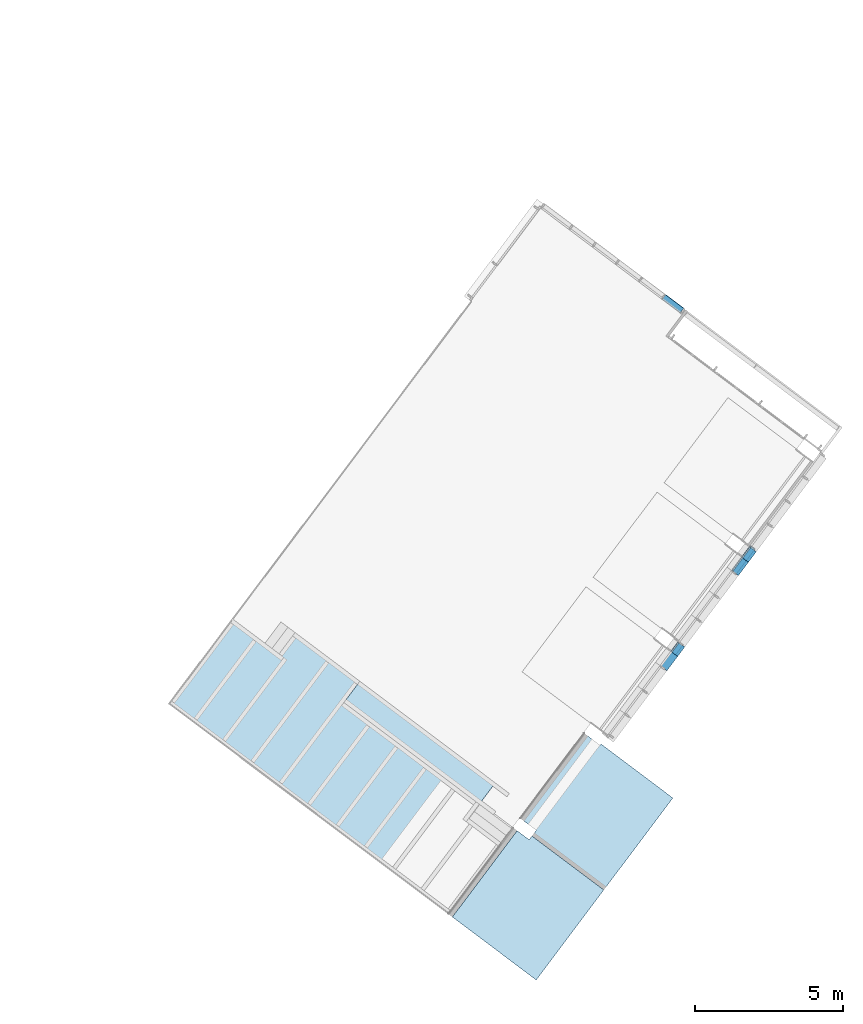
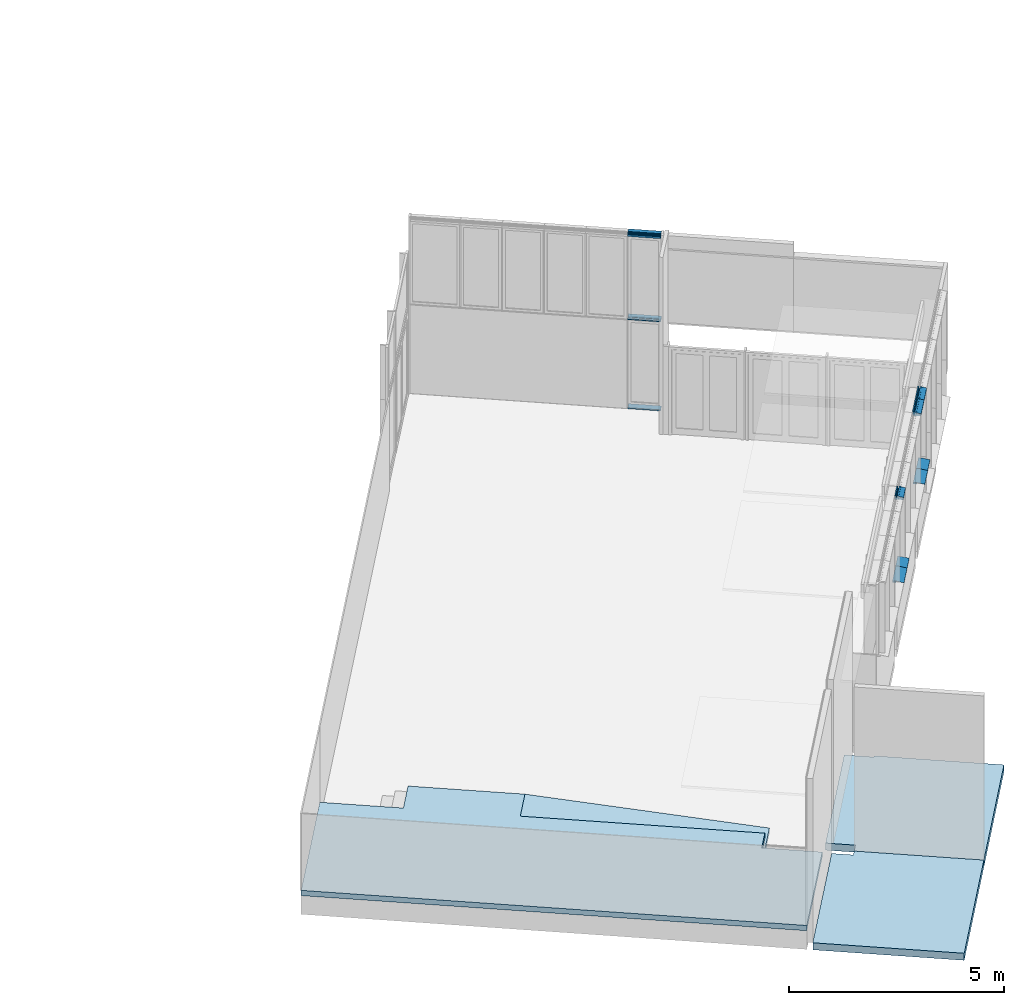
# One storey, part 5 of 15: 10 members, 4 slabs, 2 elements without a shape of their own.
"""IFC2X3 building model written with IfcOpenShell, lengths in metres."""

from ifc_helpers import new_model, entity, si_unit, converted_unit, derived_unit, direction, frame, frame_2d, origin, place, context, subcontext, project, spatial, polyline, circle_curve, parameter, trimmed, segment, composite_curve, rectangle, outline, extrude, clip, halfspace, source, transform, mapped, material, layer, layer_set, layer_usage, type_object, type_shapes, element, aggregate, save


model = new_model("IFC2X3")

# Units and contexts
model_context = context("Model", 3, precision=1e-05, world=origin(), true_north=direction((6.123031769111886e-17, 1.0)))
body_context = subcontext(model_context, "Body", "Model", "MODEL_VIEW")
ifc_project = project(units=[si_unit("LENGTHUNIT", "METRE"), si_unit("AREAUNIT", "SQUARE_METRE"), si_unit("VOLUMEUNIT", "CUBIC_METRE"), converted_unit("PLANEANGLEUNIT", "DEGREE", entity("IfcRatioMeasure", 0.017453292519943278), si_unit("PLANEANGLEUNIT", "RADIAN"), dimensions=[0, 0, 0, 0, 0, 0, 0]), si_unit("MASSUNIT", "GRAM", prefix="KILO"), derived_unit("MASSDENSITYUNIT", [(si_unit("MASSUNIT", "GRAM", prefix="KILO"), 1), (si_unit("LENGTHUNIT", "METRE"), -3)]), derived_unit("IONCONCENTRATIONUNIT", [(si_unit("MASSUNIT", "GRAM", prefix="KILO"), 1), (si_unit("LENGTHUNIT", "METRE"), -3)]), derived_unit("MOMENTOFINERTIAUNIT", [(si_unit("LENGTHUNIT", "METRE"), 4)]), si_unit("TIMEUNIT", "SECOND"), si_unit("FREQUENCYUNIT", "HERTZ"), si_unit("THERMODYNAMICTEMPERATUREUNIT", "DEGREE_CELSIUS"), derived_unit("THERMALTRANSMITTANCEUNIT", [(si_unit("MASSUNIT", "GRAM", prefix="KILO"), 1), (si_unit("THERMODYNAMICTEMPERATUREUNIT", "KELVIN"), -1), (si_unit("TIMEUNIT", "SECOND"), -3)]), derived_unit("THERMALCONDUCTANCEUNIT", [(si_unit("MASSUNIT", "GRAM", prefix="KILO"), 1), (si_unit("THERMODYNAMICTEMPERATUREUNIT", "KELVIN"), -1), (si_unit("TIMEUNIT", "SECOND"), -3), (si_unit("LENGTHUNIT", "METRE"), 1)]), derived_unit("VOLUMETRICFLOWRATEUNIT", [(si_unit("LENGTHUNIT", "METRE"), 3), (si_unit("TIMEUNIT", "SECOND"), -1)]), derived_unit("MASSFLOWRATEUNIT", [(si_unit("MASSUNIT", "GRAM", prefix="KILO"), 1), (si_unit("TIMEUNIT", "SECOND"), -1)]), derived_unit("ROTATIONALFREQUENCYUNIT", [(si_unit("TIMEUNIT", "SECOND"), -1)]), si_unit("ELECTRICCURRENTUNIT", "AMPERE"), si_unit("ELECTRICVOLTAGEUNIT", "VOLT"), si_unit("POWERUNIT", "WATT"), si_unit("FORCEUNIT", "NEWTON", prefix="KILO"), si_unit("ILLUMINANCEUNIT", "LUX"), si_unit("LUMINOUSFLUXUNIT", "LUMEN"), si_unit("LUMINOUSINTENSITYUNIT", "CANDELA"), derived_unit("USERDEFINED", [(si_unit("MASSUNIT", "GRAM", prefix="KILO"), -1), (si_unit("LENGTHUNIT", "METRE"), -2), (si_unit("TIMEUNIT", "SECOND"), 3), (si_unit("LUMINOUSFLUXUNIT", "LUMEN"), 1)]), derived_unit("USERDEFINED", [(si_unit("MASSUNIT", "GRAM", prefix="KILO"), 1), (si_unit("TIMEUNIT", "SECOND"), -3), (si_unit("LENGTHUNIT", "METRE"), 3), (si_unit("ELECTRICCURRENTUNIT", "AMPERE"), -2)]), derived_unit("SOUNDPOWERUNIT", [(si_unit("MASSUNIT", "GRAM", prefix="KILO"), 1), (si_unit("TIMEUNIT", "SECOND"), -3), (si_unit("LENGTHUNIT", "METRE"), 2)]), derived_unit("SOUNDPRESSUREUNIT", [(si_unit("MASSUNIT", "GRAM", prefix="KILO"), 1), (si_unit("LENGTHUNIT", "METRE"), -1), (si_unit("TIMEUNIT", "SECOND"), -2)]), derived_unit("LINEARVELOCITYUNIT", [(si_unit("LENGTHUNIT", "METRE"), 1), (si_unit("TIMEUNIT", "SECOND"), -1)]), si_unit("PRESSUREUNIT", "PASCAL"), derived_unit("USERDEFINED", [(si_unit("MASSUNIT", "GRAM", prefix="KILO"), 1), (si_unit("LENGTHUNIT", "METRE"), -2), (si_unit("TIMEUNIT", "SECOND"), -2)]), derived_unit("LINEARFORCEUNIT", [(si_unit("MASSUNIT", "GRAM", prefix="KILO"), 1), (si_unit("TIMEUNIT", "SECOND"), -2)]), derived_unit("PLANARFORCEUNIT", [(si_unit("MASSUNIT", "GRAM", prefix="KILO"), 1), (si_unit("LENGTHUNIT", "METRE"), -1), (si_unit("TIMEUNIT", "SECOND"), -2)]), derived_unit("SPECIFICHEATCAPACITYUNIT", [(si_unit("THERMODYNAMICTEMPERATUREUNIT", "KELVIN"), -1), (si_unit("LENGTHUNIT", "METRE"), 2), (si_unit("TIMEUNIT", "SECOND"), -2)]), derived_unit("HEATINGVALUEUNIT", [(si_unit("LENGTHUNIT", "METRE"), 2), (si_unit("TIMEUNIT", "SECOND"), -2)]), derived_unit("VAPORPERMEABILITYUNIT", [(si_unit("LENGTHUNIT", "METRE"), -1), (si_unit("TIMEUNIT", "SECOND"), 1)]), derived_unit("DYNAMICVISCOSITYUNIT", [(si_unit("MASSUNIT", "GRAM", prefix="KILO"), 1), (si_unit("TIMEUNIT", "SECOND"), -1), (si_unit("LENGTHUNIT", "METRE"), -1)]), derived_unit("THERMALEXPANSIONCOEFFICIENTUNIT", [(si_unit("THERMODYNAMICTEMPERATUREUNIT", "KELVIN"), -1)]), derived_unit("MODULUSOFELASTICITYUNIT", [(si_unit("MASSUNIT", "GRAM", prefix="KILO"), 1), (si_unit("LENGTHUNIT", "METRE"), -1), (si_unit("TIMEUNIT", "SECOND"), -2)]), derived_unit("ISOTHERMALMOISTURECAPACITYUNIT", [(si_unit("LENGTHUNIT", "METRE"), 3), (si_unit("MASSUNIT", "GRAM", prefix="KILO"), -1)]), derived_unit("MOISTUREDIFFUSIVITYUNIT", [(si_unit("TIMEUNIT", "SECOND"), -1), (si_unit("LENGTHUNIT", "METRE"), 2)])], contexts=[model_context])

# Site, building, storey
site_placement = place(None, frame((0.0, 0.0, 235.0), z_axis=(0.0, 0.0, 1.0), x_axis=(-0.7996477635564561, 0.6004693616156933, 0.0)))
site = spatial("IfcSite", under=ifc_project, at=site_placement, Name="Default", CompositionType="ELEMENT")
building_placement = place(site_placement, origin())
building = spatial("IfcBuilding", under=site, at=building_placement, CompositionType="ELEMENT")
storey_placement = place(building_placement, frame((0.0, 0.0, -5.4499999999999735)))
storey = spatial("IfcBuildingStorey", under=building, at=storey_placement, Name="PS1- Gimnàs", CompositionType="ELEMENT", Elevation=-5.4499999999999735)

# Curtain wall, members
curtain_wall_type_1 = type_object("IfcCurtainWallType", Name="Muro cortina:MC- EXT- MCv1- lateral", PredefinedType="NOTDEFINED")
curtain_wall_1_placement = place(storey_placement, frame((0.0, 0.0, 5.4499999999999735)))
curtain_wall_1 = element("IfcCurtainWall", 1, at=curtain_wall_1_placement, inside=storey, type_object=curtain_wall_type_1, Name="Muro cortina:MC- EXT- MCv1- lateral", ObjectType="Muro cortina:MC- EXT- MCv1- lateral")
ifc_material_1 = material(Name="_Alumini- T1- Perfil")
member_type_1 = type_object("IfcMemberType", Name="Montante rectangular:MC- Alu- 210x50 cm- Gimnas- Superior", PredefinedType="MULLION", material=ifc_material_1)
shared_shape_1 = source(origin(), body_context, "Body", "SweptSolid", [
    extrude(outline(polyline([(-0.09008951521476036, -0.0692243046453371), (0.10991048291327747, -0.0692243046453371), (0.10991048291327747, -0.016724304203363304), (-0.027089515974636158, -0.016724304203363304), (-0.027089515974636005, 0.030275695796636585), (0.006151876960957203, 0.030275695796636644), (0.006151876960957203, 0.01801675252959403), (0.11816142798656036, -0.0017335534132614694), (0.11816142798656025, -0.029506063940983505), (0.12116142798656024, -0.029506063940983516), (0.12116142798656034, 0.0007837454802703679), (0.009151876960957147, 0.020534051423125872), (0.009151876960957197, 0.033275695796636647), (-0.030089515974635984, 0.03327569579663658), (-0.030089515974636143, -0.016724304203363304), (-0.0620895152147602, -0.016724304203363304), (-0.06208951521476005, 0.03327569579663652), (-0.09008951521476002, 0.03327569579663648), (-0.09008951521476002, 0.030275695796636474), (-0.06508951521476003, 0.03027569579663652), (-0.06508951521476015, -0.013724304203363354), (-0.09008951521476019, -0.01372430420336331), (-0.09008951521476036, -0.0692243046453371)])), frame((-0.03327569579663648, -0.030089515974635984, -0.5662752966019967), z_axis=(0.0, 0.0, 1.0), x_axis=(0.0, -1.0, 0.0)), (0.0, 0.0, 1.0), 0.5662752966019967),
])
type_shapes(member_type_1, [shared_shape_1])
member_1_placement = place(curtain_wall_1_placement, frame((3.08514768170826, -33.38391646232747, -0.7900000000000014), z_axis=(0.0, 1.0, 0.0), x_axis=(0.0, 0.0, 1.0)))
member_1 = element("IfcMember", 2, at=member_1_placement, type_object=member_type_1, material=ifc_material_1, Name="Montante rectangular:MC- Alu- 210x50 cm- Gimnas- Superior", ObjectType="Montante rectangular:MC- Alu- 210x50 cm- Gimnas- Superior", context=body_context, shape_type="MappedRepresentation", body=[
    mapped(shared_shape_1, transform((0.0, 0.0, 0.0), scale=1.0)),
])
member_type_2 = type_object("IfcMemberType", Name="Montante rectangular:MC- Alu- gimnàs inferior lateral", PredefinedType="MULLION", material=ifc_material_1)
shared_shape_2 = source(origin(), body_context, "Body", "SweptSolid", [
    extrude(outline(polyline([(-0.14744510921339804, -0.030634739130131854), (-0.0654451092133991, -0.030634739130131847), (0.12380638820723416, 0.005375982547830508), (0.12380638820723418, 0.01936526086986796), (0.12180638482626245, 0.019365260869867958), (0.12180638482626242, 0.0070313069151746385), (-0.06544510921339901, -0.028598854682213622), (-0.06544510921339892, 0.019365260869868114), (-0.14744510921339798, 0.01936526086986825), (-0.14744510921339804, -0.030634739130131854)])), frame((-0.019365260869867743, -0.11044510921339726, -0.4399999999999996), z_axis=(0.0, 0.0, 1.0), x_axis=(0.0, -1.0, 0.0)), (0.0, 0.0, 1.0), 0.4399999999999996),
])
type_shapes(member_type_2, [shared_shape_2])
member_2_placement = place(curtain_wall_1_placement, frame((3.085147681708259, -34.39019175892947, -2.833999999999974), z_axis=(0.0, -1.0, 0.0), x_axis=(0.0, 0.0, -1.0)))
member_2 = element("IfcMember", 3, at=member_2_placement, type_object=member_type_2, material=ifc_material_1, Name="Montante rectangular:MC- Alu- gimnàs inferior lateral", ObjectType="Montante rectangular:MC- Alu- gimnàs inferior lateral", context=body_context, shape_type="MappedRepresentation", body=[
    mapped(shared_shape_2, transform((0.0, 0.0, 0.0), scale=1.0)),
])
member_type_3 = type_object("IfcMemberType", Name="Montante rectangular:MC- Alu- gimnàs inferior lateral", PredefinedType="MULLION", material=ifc_material_1)
shared_shape_3 = source(origin(), body_context, "Body", "SweptSolid", [
    extrude(outline(polyline([(-0.14744510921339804, -0.030634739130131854), (-0.0654451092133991, -0.030634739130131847), (0.12380638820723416, 0.005375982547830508), (0.12380638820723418, 0.01936526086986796), (0.12180638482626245, 0.019365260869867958), (0.12180638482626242, 0.0070313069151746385), (-0.06544510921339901, -0.028598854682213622), (-0.06544510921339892, 0.019365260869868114), (-0.14744510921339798, 0.01936526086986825), (-0.14744510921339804, -0.030634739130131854)])), frame((-0.019365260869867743, -0.11044510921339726, -0.4), z_axis=(0.0, 0.0, 1.0), x_axis=(0.0, -1.0, 0.0)), (0.0, 0.0, 1.0), 0.4),
])
type_shapes(member_type_3, [shared_shape_3])
member_3_placement = place(curtain_wall_1_placement, frame((3.085147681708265, -30.36509057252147, -2.833999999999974), z_axis=(0.0, -1.0, 0.0), x_axis=(0.0, 0.0, -1.0)))
member_3 = element("IfcMember", 4, at=member_3_placement, type_object=member_type_3, material=ifc_material_1, Name="Montante rectangular:MC- Alu- gimnàs inferior lateral", ObjectType="Montante rectangular:MC- Alu- gimnàs inferior lateral", context=body_context, shape_type="MappedRepresentation", body=[
    mapped(shared_shape_3, transform((0.0, 0.0, 0.0), scale=1.0)),
])
member_type_4 = type_object("IfcMemberType", Name="Montante rectangular:MC- Alu- 210x50 cm- Gimnas- Superior", PredefinedType="MULLION", material=ifc_material_1)
shared_shape_4 = source(origin(), body_context, "Body", "SweptSolid", [
    extrude(outline(polyline([(-0.09008951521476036, -0.0692243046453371), (0.10991048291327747, -0.0692243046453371), (0.10991048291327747, -0.016724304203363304), (-0.027089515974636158, -0.016724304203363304), (-0.027089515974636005, 0.030275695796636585), (0.006151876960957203, 0.030275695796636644), (0.006151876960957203, 0.01801675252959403), (0.11816142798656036, -0.0017335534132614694), (0.11816142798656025, -0.029506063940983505), (0.12116142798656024, -0.029506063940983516), (0.12116142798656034, 0.0007837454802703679), (0.009151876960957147, 0.020534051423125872), (0.009151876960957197, 0.033275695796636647), (-0.030089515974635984, 0.03327569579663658), (-0.030089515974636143, -0.016724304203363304), (-0.0620895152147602, -0.016724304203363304), (-0.06208951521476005, 0.03327569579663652), (-0.09008951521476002, 0.03327569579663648), (-0.09008951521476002, 0.030275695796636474), (-0.06508951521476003, 0.03027569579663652), (-0.06508951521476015, -0.013724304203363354), (-0.09008951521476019, -0.01372430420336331), (-0.09008951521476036, -0.0692243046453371)])), frame((-0.03327569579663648, -0.030089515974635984, -0.49250000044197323), z_axis=(0.0, 0.0, 1.0), x_axis=(0.0, -1.0, 0.0)), (0.0, 0.0, 1.0), 0.4925000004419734),
])
type_shapes(member_type_4, [shared_shape_4])
member_4_placement = place(curtain_wall_1_placement, frame((3.0851476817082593, -33.95019175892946, -0.7900000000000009), z_axis=(0.0, 1.0, 0.0), x_axis=(0.0, 0.0, 1.0)))
member_4 = element("IfcMember", 5, at=member_4_placement, type_object=member_type_4, material=ifc_material_1, Name="Montante rectangular:MC- Alu- 210x50 cm- Gimnas- Superior", ObjectType="Montante rectangular:MC- Alu- 210x50 cm- Gimnas- Superior", context=body_context, shape_type="MappedRepresentation", body=[
    mapped(shared_shape_4, transform((0.0, 0.0, 0.0), scale=1.0)),
])
member_type_5 = type_object("IfcMemberType", Name="Montante rectangular:MC- Alu- gimnàs inferior lateral", PredefinedType="MULLION", material=ifc_material_1)
shared_shape_5 = source(origin(), body_context, "Body", "SweptSolid", [
    extrude(outline(polyline([(-0.14744510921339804, -0.030634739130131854), (-0.0654451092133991, -0.030634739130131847), (0.12380638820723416, 0.005375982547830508), (0.12380638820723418, 0.01936526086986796), (0.12180638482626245, 0.019365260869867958), (0.12180638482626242, 0.0070313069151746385), (-0.06544510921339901, -0.028598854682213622), (-0.06544510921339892, 0.019365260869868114), (-0.14744510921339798, 0.01936526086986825), (-0.14744510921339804, -0.030634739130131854)])), frame((-0.019365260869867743, -0.11044510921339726, -0.5662752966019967), z_axis=(0.0, 0.0, 1.0), x_axis=(0.0, -1.0, 0.0)), (0.0, 0.0, 1.0), 0.5662752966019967),
])
type_shapes(member_type_5, [shared_shape_5])
member_5_placement = place(curtain_wall_1_placement, frame((3.0851476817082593, -33.95019175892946, -2.833999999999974), z_axis=(0.0, -1.0, 0.0), x_axis=(0.0, 0.0, -1.0)))
member_5 = element("IfcMember", 6, at=member_5_placement, type_object=member_type_5, material=ifc_material_1, Name="Montante rectangular:MC- Alu- gimnàs inferior lateral", ObjectType="Montante rectangular:MC- Alu- gimnàs inferior lateral", context=body_context, shape_type="MappedRepresentation", body=[
    mapped(shared_shape_5, transform((0.0, 0.0, 0.0), scale=1.0)),
])
member_type_6 = type_object("IfcMemberType", Name="Montante rectangular:MC- Alu- 210x50 cm- Gimnas- Superior", PredefinedType="MULLION", material=ifc_material_1)
shared_shape_6 = source(origin(), body_context, "Body", "SweptSolid", [
    extrude(outline(polyline([(-0.09008951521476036, -0.0692243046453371), (0.10991048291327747, -0.0692243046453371), (0.10991048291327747, -0.016724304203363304), (-0.027089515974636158, -0.016724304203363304), (-0.027089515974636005, 0.030275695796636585), (0.006151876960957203, 0.030275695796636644), (0.006151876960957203, 0.01801675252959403), (0.11816142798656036, -0.0017335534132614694), (0.11816142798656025, -0.029506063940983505), (0.12116142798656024, -0.029506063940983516), (0.12116142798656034, 0.0007837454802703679), (0.009151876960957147, 0.020534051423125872), (0.009151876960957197, 0.033275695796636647), (-0.030089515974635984, 0.03327569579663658), (-0.030089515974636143, -0.016724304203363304), (-0.0620895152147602, -0.016724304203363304), (-0.06208951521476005, 0.03327569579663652), (-0.09008951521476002, 0.03327569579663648), (-0.09008951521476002, 0.030275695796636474), (-0.06508951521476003, 0.03027569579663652), (-0.06508951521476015, -0.013724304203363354), (-0.09008951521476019, -0.01372430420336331), (-0.09008951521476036, -0.0692243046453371)])), frame((-0.03327569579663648, -0.030089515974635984, -0.4), z_axis=(0.0, 0.0, 1.0), x_axis=(0.0, -1.0, 0.0)), (0.0, 0.0, 1.0), 0.4),
])
type_shapes(member_type_6, [shared_shape_6])
member_6_placement = place(curtain_wall_1_placement, frame((3.0851476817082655, -29.965090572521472, -0.7900000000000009), z_axis=(0.0, 1.0, 0.0), x_axis=(0.0, 0.0, 1.0)))
member_6 = element("IfcMember", 7, at=member_6_placement, type_object=member_type_6, material=ifc_material_1, Name="Montante rectangular:MC- Alu- 210x50 cm- Gimnas- Superior", ObjectType="Montante rectangular:MC- Alu- 210x50 cm- Gimnas- Superior", context=body_context, shape_type="MappedRepresentation", body=[
    mapped(shared_shape_6, transform((0.0, 0.0, 0.0), scale=1.0)),
])
member_type_7 = type_object("IfcMemberType", Name="Montante rectangular:MC- Alu- gimnàs inferior lateral", PredefinedType="MULLION", material=ifc_material_1)
shared_shape_7 = source(origin(), body_context, "Body", "SweptSolid", [
    extrude(outline(polyline([(-0.14744510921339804, -0.030634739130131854), (-0.0654451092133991, -0.030634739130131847), (0.12380638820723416, 0.005375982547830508), (0.12380638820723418, 0.01936526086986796), (0.12180638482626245, 0.019365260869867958), (0.12180638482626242, 0.0070313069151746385), (-0.06544510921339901, -0.028598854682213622), (-0.06544510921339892, 0.019365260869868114), (-0.14744510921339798, 0.01936526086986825), (-0.14744510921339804, -0.030634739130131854)])), frame((-0.019365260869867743, -0.11044510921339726, -0.6062752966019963), z_axis=(0.0, 0.0, 1.0), x_axis=(0.0, -1.0, 0.0)), (0.0, 0.0, 1.0), 0.6062752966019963),
])
type_shapes(member_type_7, [shared_shape_7])
member_7_placement = place(curtain_wall_1_placement, frame((3.0851476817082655, -29.965090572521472, -2.833999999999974), z_axis=(0.0, -1.0, 0.0), x_axis=(0.0, 0.0, -1.0)))
member_7 = element("IfcMember", 8, at=member_7_placement, type_object=member_type_7, material=ifc_material_1, Name="Montante rectangular:MC- Alu- gimnàs inferior lateral", ObjectType="Montante rectangular:MC- Alu- gimnàs inferior lateral", context=body_context, shape_type="MappedRepresentation", body=[
    mapped(shared_shape_7, transform((0.0, 0.0, 0.0), scale=1.0)),
])
aggregate(curtain_wall_1, [member_1, member_2, member_3, member_4, member_5, member_6, member_7])

curtain_wall_type_2 = type_object("IfcCurtainWallType", Name="Muro cortina:MC- EXT- MCv1- frontal", PredefinedType="NOTDEFINED")
curtain_wall_2_placement = place(storey_placement, frame((0.0, 0.0, 5.4499999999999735)))
curtain_wall_2 = element("IfcCurtainWall", 9, at=curtain_wall_2_placement, inside=storey, type_object=curtain_wall_type_2, Name="Muro cortina:MC- EXT- MCv1- frontal", ObjectType="Muro cortina:MC- EXT- MCv1- frontal")
member_type_8 = type_object("IfcMemberType", Name="Montante rectangular:MC- Alu- 210x50 cm- Gimnas- Superior", PredefinedType="MULLION", material=ifc_material_1)
shared_shape_8 = source(origin(), body_context, "Body", "SweptSolid", [
    extrude(outline(polyline([(-0.09008951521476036, -0.0692243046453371), (0.10991048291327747, -0.0692243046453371), (0.10991048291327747, -0.016724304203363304), (-0.027089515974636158, -0.016724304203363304), (-0.027089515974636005, 0.030275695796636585), (0.006151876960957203, 0.030275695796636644), (0.006151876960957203, 0.01801675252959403), (0.11816142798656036, -0.0017335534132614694), (0.11816142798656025, -0.029506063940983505), (0.12116142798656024, -0.029506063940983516), (0.12116142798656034, 0.0007837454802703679), (0.009151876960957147, 0.020534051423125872), (0.009151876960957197, 0.033275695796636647), (-0.030089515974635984, 0.03327569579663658), (-0.030089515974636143, -0.016724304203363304), (-0.0620895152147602, -0.016724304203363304), (-0.06208951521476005, 0.03327569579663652), (-0.09008951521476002, 0.03327569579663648), (-0.09008951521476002, 0.030275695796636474), (-0.06508951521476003, 0.03027569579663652), (-0.06508951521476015, -0.013724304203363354), (-0.09008951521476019, -0.01372430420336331), (-0.09008951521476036, -0.0692243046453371)])), frame((-0.03327569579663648, -0.030089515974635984, -0.7744999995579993), z_axis=(0.0, 0.0, 1.0), x_axis=(0.0, -1.0, 0.0)), (0.0, 0.0, 1.0), 0.7744999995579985),
])
type_shapes(member_type_8, [shared_shape_8])
member_8_placement = place(curtain_wall_2_placement, frame((9.76064768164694, -39.3651917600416, -0.4400000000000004), z_axis=(-1.0, 0.0, 0.0), x_axis=(0.0, 0.0, 1.0)))
member_8 = element("IfcMember", 10, at=member_8_placement, type_object=member_type_8, material=ifc_material_1, Name="Montante rectangular:MC- Alu- 210x50 cm- Gimnas- Superior", ObjectType="Montante rectangular:MC- Alu- 210x50 cm- Gimnas- Superior", context=body_context, shape_type="MappedRepresentation", body=[
    mapped(shared_shape_8, transform((0.0, 0.0, 0.0), scale=1.0)),
])
member_type_9 = type_object("IfcMemberType", Name="Montante rectangular:MC- Alu- 140x52,5 cm- Gimnas- Inferior", PredefinedType="MULLION", material=ifc_material_1)
shared_shape_9 = source(origin(), body_context, "Body", "SweptSolid", [
    extrude(outline(composite_curve([segment(polyline([(-0.12919138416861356, -0.017967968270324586), (-0.0471913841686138, -0.017967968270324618)]), True, "CONTINUOUS"), segment(polyline([(-0.0471913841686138, -0.017967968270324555), (0.04598801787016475, -0.009575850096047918)]), True, "CONTINUOUS"), segment(trimmed(circle_curve(frame_2d((0.04580861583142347, -0.007583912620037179), x_axis=(0.08970101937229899, -0.9959687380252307)), 0.001999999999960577), [parameter(0.0)], [parameter(84.85359280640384)], True, "PARAMETER"), True, "CONTINUOUS"), segment(polyline([(0.04780861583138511, -0.007583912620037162), (0.04780861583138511, 0.007412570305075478)]), True, "CONTINUOUS"), segment(trimmed(circle_curve(frame_2d((0.04580861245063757, 0.007412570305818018), x_axis=(1.0, 0.0)), 0.002000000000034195), [parameter(0.0)], [parameter(90.0000000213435)], True, "PARAMETER"), True, "CONTINUOUS"), segment(polyline([(0.04580861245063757, 0.009412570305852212), (0.037808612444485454, 0.009412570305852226)]), True, "CONTINUOUS"), segment(polyline([(0.037808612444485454, 0.00941257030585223), (0.037808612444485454, 0.007412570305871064)]), True, "CONTINUOUS"), segment(polyline([(0.037808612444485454, 0.007412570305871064), (0.045308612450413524, 0.007412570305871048)]), True, "CONTINUOUS"), segment(trimmed(circle_curve(frame_2d((0.045308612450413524, 0.006912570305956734), x_axis=(0.0, 1.0)), 0.0004999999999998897), [parameter(269.99999999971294)], [parameter(0.0)], True, "PARAMETER"), False, "CONTINUOUS"), segment(polyline([(0.04580861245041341, 0.006912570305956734), (0.045808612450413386, -0.007583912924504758)]), True, "CONTINUOUS"), segment(polyline([(0.045808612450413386, -0.007583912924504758), (-0.04719138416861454, -0.01595987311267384)]), True, "CONTINUOUS"), segment(polyline([(-0.04719138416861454, -0.015959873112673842), (-0.047191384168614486, 0.014332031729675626)]), True, "CONTINUOUS"), segment(polyline([(-0.047191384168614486, 0.014332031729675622), (-0.1291913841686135, 0.014332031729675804)]), True, "CONTINUOUS"), segment(polyline([(-0.1291913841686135, 0.014332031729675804), (-0.12919138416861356, -0.017967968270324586)]), True, "CONTINUOUS")], self_intersect=False)), frame((-0.014332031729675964, -0.09219138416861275, -0.7744999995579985), z_axis=(0.0, 0.0, 1.0), x_axis=(0.0, -1.0, 0.0)), (0.0, 0.0, 1.0), 0.7744999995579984),
])
type_shapes(member_type_9, [shared_shape_9])
member_9_placement = place(curtain_wall_2_placement, frame((10.53514768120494, -39.3651917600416, -5.4499999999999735), z_axis=(1.0, 0.0, 0.0), x_axis=(0.0, 0.0, -1.0)))
member_9 = element("IfcMember", 11, at=member_9_placement, type_object=member_type_9, material=ifc_material_1, Name="Montante rectangular:MC- Alu- 140x52,5 cm- Gimnas- Inferior", ObjectType="Montante rectangular:MC- Alu- 140x52,5 cm- Gimnas- Inferior", context=body_context, shape_type="MappedRepresentation", body=[
    mapped(shared_shape_9, transform((0.0, 0.0, 0.0), scale=1.0)),
])
member_type_10 = type_object("IfcMemberType", Name="Montante rectangular:MC- Alu- 140x52,5 cm- Fa patis- Centre", PredefinedType="MULLION", material=ifc_material_1)
shared_shape_10 = source(origin(), body_context, "Body", "SweptSolid", [
    extrude(outline(polyline([(-0.021999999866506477, -0.026250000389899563), (0.11699999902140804, -0.026250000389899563), (0.11699999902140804, 0.026250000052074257), (-0.02200000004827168, 0.026250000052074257), (-0.02200000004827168, 0.015000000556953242), (-0.07299999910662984, 0.015000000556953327), (-0.07299999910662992, -0.01500000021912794), (-0.021999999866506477, -0.01500000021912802), (-0.021999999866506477, -0.026250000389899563)])), frame((0.0, -0.022999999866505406, -0.774499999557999), z_axis=(0.0, 0.0, 1.0), x_axis=(0.0, -1.0, 0.0)), (0.0, 0.0, 1.0), 0.7744999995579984),
])
type_shapes(member_type_10, [shared_shape_10])
member_10_placement = place(curtain_wall_2_placement, frame((9.76064768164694, -39.3651917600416, -2.8999999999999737), z_axis=(-1.0, 0.0, 0.0), x_axis=(0.0, 0.0, 1.0)))
member_10 = element("IfcMember", 12, at=member_10_placement, type_object=member_type_10, material=ifc_material_1, Name="Montante rectangular:MC- Alu- 140x52,5 cm- Fa patis- Centre", ObjectType="Montante rectangular:MC- Alu- 140x52,5 cm- Fa patis- Centre", context=body_context, shape_type="MappedRepresentation", body=[
    mapped(shared_shape_10, transform((0.0, 0.0, 0.0), scale=1.0)),
])
aggregate(curtain_wall_2, [member_8, member_9, member_10])

# Slabs
ifc_material_2 = material(Name="_Formigó antilliscant- T2- PAV")
ifc_layer_1 = layer(ifc_material_2, 0.14)
ifc_material_3 = material(Name="_Aillament")
ifc_layer_2 = layer(ifc_material_3, 0.06)
ifc_layer_set_1 = layer_set([ifc_layer_1, ifc_layer_2], Name="Suelo:PAV- Formigó Antilliscant + aillament- T1- 20 cm")
ifc_layer_usage_1 = layer_usage(ifc_layer_set_1, "AXIS3", "POSITIVE", 0.0)
slab_type_1 = type_object("IfcSlabType", Name="Suelo:PAV- Formigó Antilliscant + aillament- T1- 20 cm", PredefinedType="FLOOR", material=ifc_layer_set_1)
slab_1_placement = place(storey_placement, origin())
element("IfcSlab", 13, at=slab_1_placement, inside=storey, type_object=slab_type_1, material=ifc_layer_usage_1, Name="Suelo:PAV- Formigó Antilliscant + aillament- T1- 20 cm", ObjectType="Suelo:PAV- Formigó Antilliscant + aillament- T1- 20 cm", PredefinedType="FLOOR", context=body_context, shape_type="SweptSolid", body=[
    extrude(outline(polyline([(-1.8973482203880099, -2.4544856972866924), (1.9924494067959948, -2.4544856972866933), (1.9924494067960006, 0.584828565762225), (1.7524494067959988, 0.5848285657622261), (1.7524494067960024, 1.2848285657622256), (-1.8475505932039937, 1.2848285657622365), (-1.8475505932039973, 0.5848285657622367), (-1.8973482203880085, 0.584828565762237), (-1.8973482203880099, -2.4544856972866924)])), frame((2.5603191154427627, -24.14264116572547, 0.0), z_axis=(0.0, 0.0, -1.0), x_axis=(0.0, 1.0, 0.0)), (0.0, 0.0, 1.0), 0.2),
])
slab_2_placement = place(storey_placement, origin())
element("IfcSlab", 14, at=slab_2_placement, inside=storey, type_object=slab_type_1, material=ifc_layer_usage_1, Name="Suelo:PAV- Formigó Antilliscant + aillament- T1- 20 cm", ObjectType="Suelo:PAV- Formigó Antilliscant + aillament- T1- 20 cm", PredefinedType="FLOOR", context=body_context, shape_type="SweptSolid", body=[
    extrude(outline(polyline([(-1.3233333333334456, -2.196209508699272), (2.4866666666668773, -2.196209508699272), (2.486666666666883, 1.353104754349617), (-1.1633333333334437, 1.3531047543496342), (-1.1633333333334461, 0.843104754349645), (-1.3233333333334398, 0.8431047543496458), (-1.3233333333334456, -2.196209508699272)])), frame((2.3020429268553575, -20.82685842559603, 0.0), z_axis=(0.0, 0.0, -1.0), x_axis=(0.0, 1.0, 0.0)), (0.0, 0.0, 1.0), 0.2),
])
ifc_layer_3 = layer(ifc_material_2, 0.14999999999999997)
ifc_layer_set_2 = layer_set([ifc_layer_3], Name="Suelo:PAV- Paviment genèric tarima")
ifc_layer_usage_2 = layer_usage(ifc_layer_set_2, "AXIS3", "POSITIVE", 0.0)
slab_type_2 = type_object("IfcSlabType", Name="Suelo:PAV- Paviment genèric tarima", PredefinedType="FLOOR", material=ifc_layer_set_2)
slab_3_placement = place(storey_placement, origin())
element("IfcSlab", 15, at=slab_3_placement, inside=storey, type_object=slab_type_2, material=ifc_layer_usage_2, Name="Suelo:PAV- Paviment genèric tarima", ObjectType="Suelo:PAV- Paviment genèric tarima", PredefinedType="FLOOR", context=body_context, shape_type="SweptSolid", body=[
    extrude(outline(polyline([(-0.059999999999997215, -6.06199999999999), (2.9399999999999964, -6.06199999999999), (2.940000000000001, 5.787999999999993), (-0.6599999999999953, 5.787999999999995), (-0.6599999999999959, 3.827999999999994), (-1.559999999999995, 3.8279999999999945), (-1.559999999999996, 1.0879999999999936), (-0.6599999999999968, 1.0879999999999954), (-0.6599999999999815, -4.642000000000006), (-0.06000000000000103, -4.642000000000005), (-0.059999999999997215, -6.06199999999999)])), frame((9.857147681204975, -21.280191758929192, 0.479999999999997), z_axis=(0.0, 0.0, -1.0), x_axis=(0.0, 1.0, 0.0)), (0.0, 0.0, 1.0), 0.14999999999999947),
])
slab_4_placement = place(storey_placement, origin())
element("IfcSlab", 16, at=slab_4_placement, inside=storey, type_object=slab_type_2, material=ifc_layer_usage_2, Name="Suelo:PAV- Paviment genèric tarima", ObjectType="Suelo:PAV- Paviment genèric tarima", PredefinedType="FLOOR", context=body_context, shape_type="SweptSolid", body=[
    clip(clip(extrude(rectangle(XDim=5.750069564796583, YDim=0.899999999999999, at=frame_2d((-2.1649348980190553e-15, 2.220446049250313e-16), x_axis=(0.0, 1.0))), frame((8.080147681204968, -22.390191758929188, 0.2399999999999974), z_axis=(0.08347725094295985, 0.0, -0.9965096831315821), x_axis=(0.0, 1.0, 0.0)), (0.0, -0.08347725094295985, 0.9965096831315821), 0.150525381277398), halfspace(frame((8.080147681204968, -22.390191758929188, 0.08999999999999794), z_axis=(0.08347725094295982, 0.0, -0.9965096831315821), x_axis=(0.9965096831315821, 0.0, 0.08347725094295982)), False)), halfspace(frame((8.080147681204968, -22.390191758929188, 0.2399999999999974), z_axis=(-0.08347725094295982, 0.0, 0.9965096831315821), x_axis=(0.9965096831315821, 0.0, 0.08347725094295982)), False)),
])

save(model, "model.ifc")
